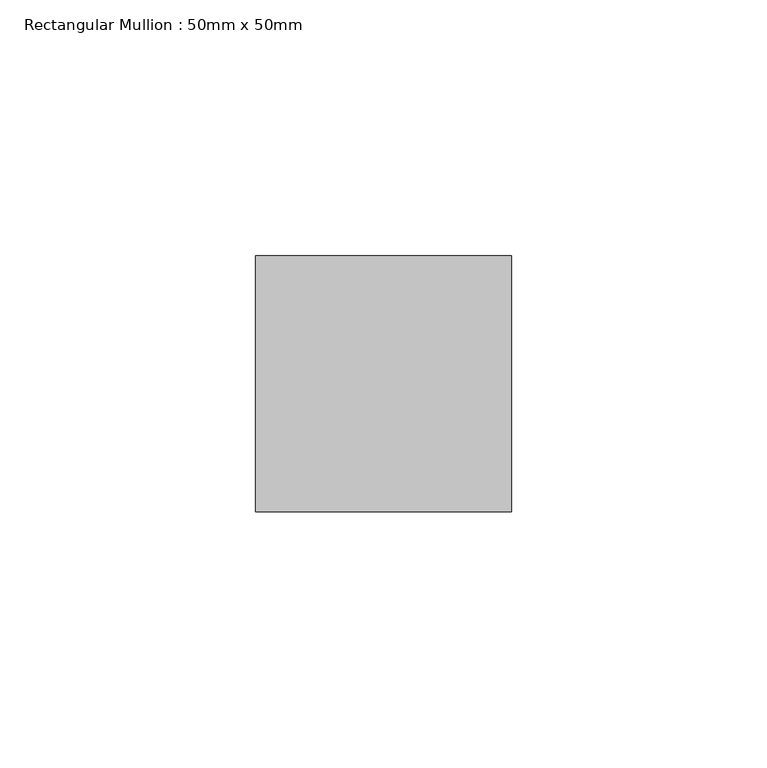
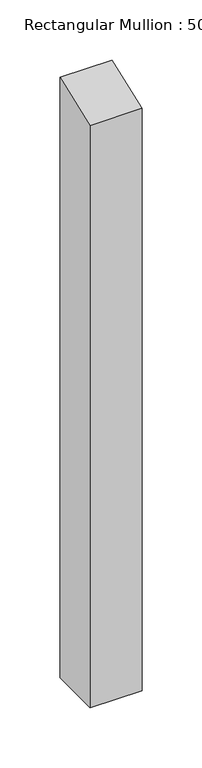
"""IFC4 building model written with IfcOpenShell, lengths in millimetres: member geometry, Rectangular Mullion : 50mm x 50mm."""

from ifc_helpers import new_model, si_unit, frame, origin, place, context, project, spatial, polyline, outline, extrude, source, transform, mapped, element, save


def rectangular_mullion_50mm_x_50mm_464c55a4(model_context):
    return source(origin(), model_context, "Body", "SweptSolid", [
        extrude(outline(polyline([(-25.0, -9.3435582), (25.0, 9.3435582), (25.0, -600.0), (-25.0, -600.0), (-25.0, -9.3435582)])), frame((-50.0, 0.0, 0.0), z_axis=(1.0, 0.0, 0.0), x_axis=(0.0, 1.0, 0.0)), (0.0, 0.0, 1.0), 50.0),
    ])


if __name__ == "__main__":
    model = new_model("IFC4")
    model_context = context("Model", 3, world=origin())
    ifc_project = project(units=[si_unit("LENGTHUNIT", "METRE", prefix="MILLI")], contexts=[model_context])
    site = spatial("IfcSite", under=ifc_project)
    building = spatial("IfcBuilding", under=site)
    placement = place(None, origin())
    rectangular_mullion_50mm_x_50mm_shape = rectangular_mullion_50mm_x_50mm_464c55a4(model_context)
    element("IfcMember", 1, ObjectType="Rectangular Mullion : 50mm x 50mm", at=placement, inside=building, context=model_context, shape_type="MappedRepresentation", body=[
        mapped(rectangular_mullion_50mm_x_50mm_shape, transform((0.0, 0.0, 0.0), x_axis=(1.0, 0.0, 0.0), y_axis=(0.0, 1.0, 0.0), z_axis=(0.0, 0.0, 1.0))),
    ])
    save(model, "model.ifc")
